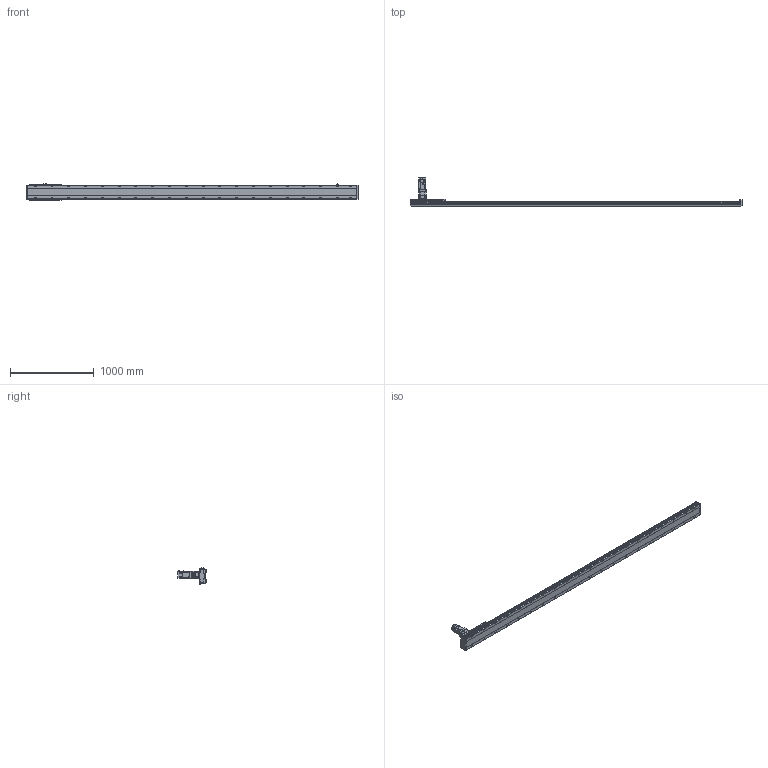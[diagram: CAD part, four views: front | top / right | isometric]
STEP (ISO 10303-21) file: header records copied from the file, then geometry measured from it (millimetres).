
FILE_DESCRIPTION(/* description */ ('STEP AP203'),/* implementation_level */ '2;1');
FILE_NAME(/* name */ 'SHS17A-L13-S3500-BC-T75-C1-N(0)',/* time_stamp */ '2023-03-27T08:58:42+02:00',/* author */ ('License CC BY-ND 4.0'),/* organization */ ('CADENAS'),/* preprocessor_version */ 'ST-DEVELOPER v19.3',/* originating_system */ 'PARTsolutions',/* authorisation */ ' ');
FILE_SCHEMA (('CONFIG_CONTROL_DESIGN'));
Length unit declared in the file: millimetre
Products named in the file (7): SHS17A-L13-S3500-BC-T75-C1-N(0); PSC140-sensor; SHS17A-S3500(0)_body2; T75-p1; SHS17A-S3500_body3; SHS17A-S3500-C1(0)_slider; SHS17A-S3500-C1(0)_body
Assembly tree (13 placements, depth 2):
  SHS17A-L13-S3500-BC-T75-C1-N(0)
    PSC140-sensor  x3
    SHS17A-S3500(0)_body2  x6
    T75-p1
    SHS17A-S3500_body3
    SHS17A-S3500-C1(0)_slider
    SHS17A-S3500-C1(0)_body
Bounding box: 3954 x 333.8 x 193.4 mm (x, y, z)
Volume: 27295712.9 mm3; surface area: 3138919 mm2
Topology: 13 solids, 13 shells, 2296 faces, 5851 edges, 3810 vertices
Faces by surface type: plane 1429, cylinder 770, cone 94, torus 3
Full cylindrical faces by diameter (mm): 2.8 x3, 4.134 x24, 4.5 x2, 4.6 x3, 4.917 x15, 5.5 x48, 6 x7, 6.5 x24, 6.647 x48, 6.8 x9, 8 x3, 8.5 x40, 10 x28, 11 x4, 14 x40, 22 x1, 24 x1, 24.2 x1, 28 x1, 28.2 x1, 28.8 x1, 29.8 x1, 48.542 x1, 68 x1, 70 x1, 78 x1, 80 x2
Entity records: 45724 total; most frequent: CARTESIAN_POINT 9088, DIRECTION 7423, ORIENTED_EDGE 7180, EDGE_CURVE 3590, AXIS2_PLACEMENT_3D 2642, VERTEX_POINT 2527, EDGE_LOOP 2147, FACE_BOUND 2147
